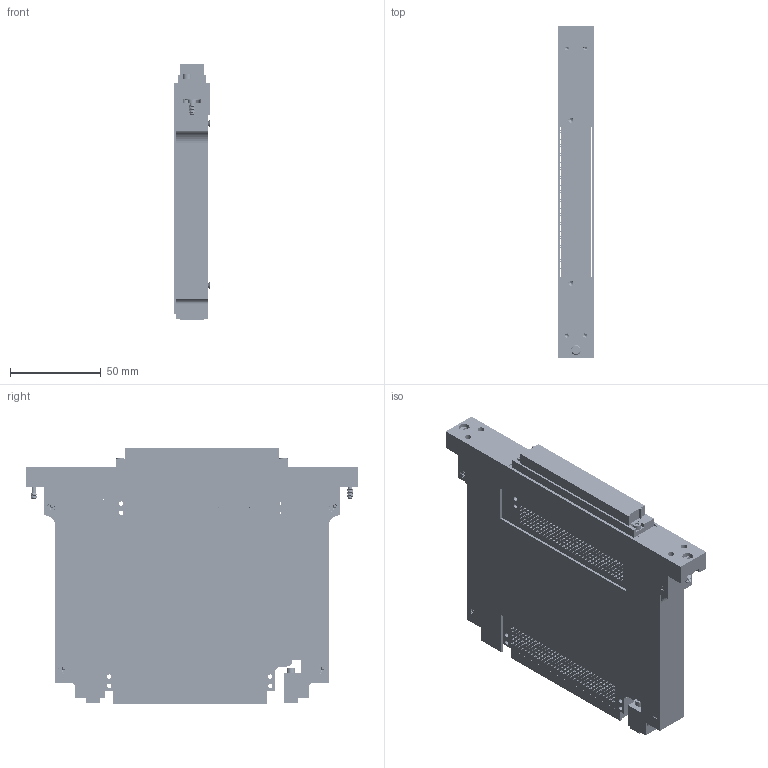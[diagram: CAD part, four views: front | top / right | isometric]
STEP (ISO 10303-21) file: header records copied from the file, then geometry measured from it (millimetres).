
FILE_DESCRIPTION((''),'2;1');
FILE_NAME('X:\CAD WIP\Shonte''_marketing\Inventor Web Projects\STP files\561649-RevA-STP.stp','2013-10-02T09:06:49',('shodnett'),(''),'Autodesk Inventor 2011','Autodesk Inventor 2011','');
FILE_SCHEMA(('AUTOMOTIVE_DESIGN { 1 0 10303 214 1 1 1 1 }'));
Length unit declared in the file: inch
Products named in the file (1): 561649- CU
Bounding box: 20.07 x 183.26 x 141.67 mm (x, y, z)
Surface area: 124919 mm2 (no closed solid volume)
Topology: 0 solids, 29 shells, 6892 faces, 18528 edges, 12384 vertices
Faces by surface type: plane 4772, bspline 1418, cylinder 646, cone 56
Full cylindrical faces by diameter (mm): 1.016 x492, 1.27 x2, 1.659 x7, 1.702 x2, 2.184 x20, 2.413 x1, 2.438 x16, 2.5 x8, 2.54 x2, 2.8 x4, 2.845 x6, 2.997 x1, 3.734 x5, 4.496 x2, 4.572 x1, 4.648 x4, 4.763 x2, 4.851 x1, 5.537 x2, 5.953 x2
Entity records: 222679 total; most frequent: CARTESIAN_POINT 54935, ORIENTED_EDGE 34712, DIRECTION 26872, EDGE_CURVE 17356, VECTOR 12972, LINE 12972, VERTEX_POINT 11843, EDGE_LOOP 9429
